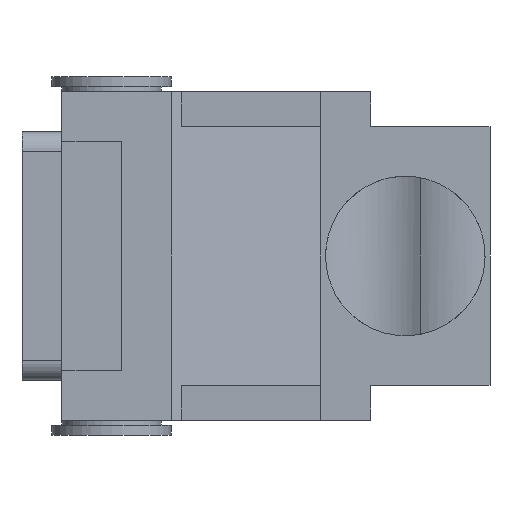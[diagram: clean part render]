
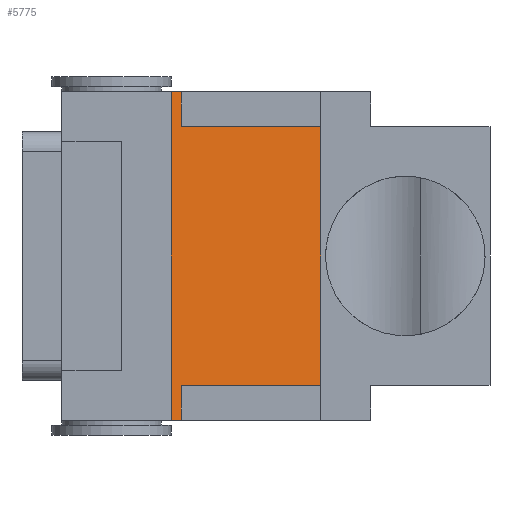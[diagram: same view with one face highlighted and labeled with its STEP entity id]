
A CAD part, front view. The second image highlights one B-rep face of the part: STEP entity #5775.
In plain terms, the highlighted planar face has unit normal (0.555, -0.832, 0).
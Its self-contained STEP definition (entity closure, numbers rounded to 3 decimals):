
#29=LINE('',#8067,#815);
#40=LINE('',#8091,#826);
#41=LINE('',#8093,#827);
#42=LINE('',#8095,#828);
#43=LINE('',#8097,#829);
#44=LINE('',#8099,#830);
#45=LINE('',#8101,#831);
#46=LINE('',#8103,#832);
#815=VECTOR('',#6510,1000.);
#826=VECTOR('',#6525,1000.);
#827=VECTOR('',#6526,1000.);
#828=VECTOR('',#6527,1000.);
#829=VECTOR('',#6528,1000.);
#830=VECTOR('',#6529,1000.);
#831=VECTOR('',#6530,1000.);
#832=VECTOR('',#6531,1000.);
#1595=PLANE('',#6128);
#1942=ORIENTED_EDGE('',*,*,#3568,.T.);
#1943=ORIENTED_EDGE('',*,*,#3580,.T.);
#1944=ORIENTED_EDGE('',*,*,#3581,.F.);
#1945=ORIENTED_EDGE('',*,*,#3582,.F.);
#1946=ORIENTED_EDGE('',*,*,#3583,.T.);
#1947=ORIENTED_EDGE('',*,*,#3584,.F.);
#1948=ORIENTED_EDGE('',*,*,#3585,.T.);
#1949=ORIENTED_EDGE('',*,*,#3586,.T.);
#3568=EDGE_CURVE('',#4388,#4386,#29,.T.);
#3580=EDGE_CURVE('',#4386,#4399,#40,.T.);
#3581=EDGE_CURVE('',#4400,#4399,#41,.T.);
#3582=EDGE_CURVE('',#4401,#4400,#42,.T.);
#3583=EDGE_CURVE('',#4401,#4402,#43,.T.);
#3584=EDGE_CURVE('',#4403,#4402,#44,.T.);
#3585=EDGE_CURVE('',#4403,#4404,#45,.T.);
#3586=EDGE_CURVE('',#4404,#4388,#46,.T.);
#4386=VERTEX_POINT('',#8065);
#4388=VERTEX_POINT('',#8068);
#4399=VERTEX_POINT('',#8092);
#4400=VERTEX_POINT('',#8094);
#4401=VERTEX_POINT('',#8096);
#4402=VERTEX_POINT('',#8098);
#4403=VERTEX_POINT('',#8100);
#4404=VERTEX_POINT('',#8102);
#4956=EDGE_LOOP('',(#1942,#1943,#1944,#1945,#1946,#1947,#1948,#1949));
#5358=FACE_BOUND('',#4956,.T.);
#5775=ADVANCED_FACE('',(#5358),#1595,.T.);
#6128=AXIS2_PLACEMENT_3D('',#8090,#6523,#6524);
#6510=DIRECTION('',(0.832,0.555,0.));
#6523=DIRECTION('',(0.555,-0.832,0.));
#6524=DIRECTION('',(0.832,0.555,0.));
#6525=DIRECTION('',(0.,0.,1.));
#6526=DIRECTION('',(-0.832,-0.555,0.));
#6527=DIRECTION('',(0.,0.,-1.));
#6528=DIRECTION('',(-0.832,-0.555,0.));
#6529=DIRECTION('',(0.,0.,-1.));
#6530=DIRECTION('',(-0.832,-0.555,0.));
#6531=DIRECTION('',(0.,0.,-1.));
#8065=CARTESIAN_POINT('',(16.,0.667,-16.5));
#8067=CARTESIAN_POINT('',(37.154,14.769,-16.5));
#8068=CARTESIAN_POINT('',(15.,0.,-16.5));
#8090=CARTESIAN_POINT('',(30.,10.,20.));
#8091=CARTESIAN_POINT('',(16.,0.667,20.));
#8092=CARTESIAN_POINT('',(16.,0.667,-13.));
#8093=CARTESIAN_POINT('',(30.,10.,-13.));
#8094=CARTESIAN_POINT('',(30.,10.,-13.));
#8095=CARTESIAN_POINT('',(30.,10.,20.));
#8096=CARTESIAN_POINT('',(30.,10.,13.));
#8097=CARTESIAN_POINT('',(30.,10.,13.));
#8098=CARTESIAN_POINT('',(16.,0.667,13.));
#8099=CARTESIAN_POINT('',(16.,0.667,20.));
#8100=CARTESIAN_POINT('',(16.,0.667,16.5));
#8101=CARTESIAN_POINT('',(51.,24.,16.5));
#8102=CARTESIAN_POINT('',(15.,0.,16.5));
#8103=CARTESIAN_POINT('',(15.,0.,20.));
